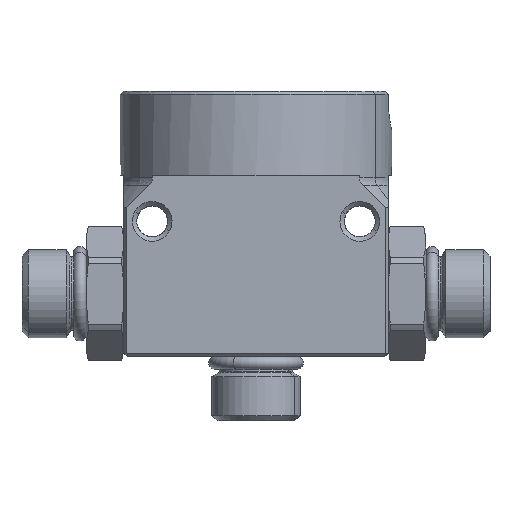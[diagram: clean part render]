
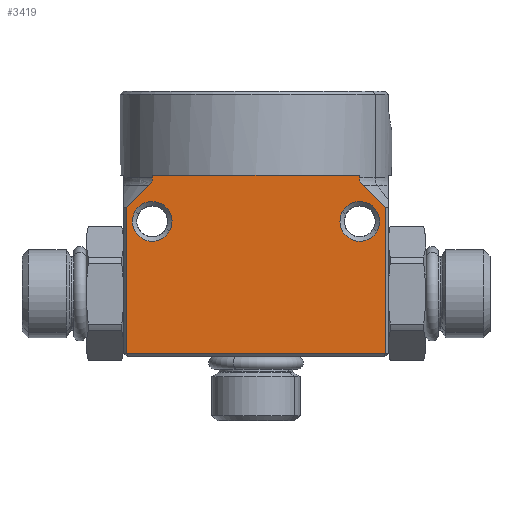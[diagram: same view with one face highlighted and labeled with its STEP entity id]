
A CAD part, left-side view. The second image highlights one B-rep face of the part: STEP entity #3419.
In plain terms, the highlighted planar face has unit normal (-1, 0, 0).
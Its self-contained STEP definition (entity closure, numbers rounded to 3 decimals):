
#2984=AXIS2_PLACEMENT_3D('Circle Axis2P3D',#2982,#2983,$) ;
#3008=AXIS2_PLACEMENT_3D('Circle Axis2P3D',#3006,#3007,$) ;
#3105=AXIS2_PLACEMENT_3D('Circle Axis2P3D',#3103,#3104,$) ;
#3129=AXIS2_PLACEMENT_3D('Circle Axis2P3D',#3127,#3128,$) ;
#3392=AXIS2_PLACEMENT_3D('Plane Axis2P3D',#3389,#3390,#3391) ;
#40=CARTESIAN_POINT('Vertex',(-14.,16.449,-2.072)) ;
#45=CARTESIAN_POINT('Line Origine',(-14.,16.449,4.564)) ;
#49=CARTESIAN_POINT('Vertex',(-14.,16.449,-1.7)) ;
#56=CARTESIAN_POINT('Vertex',(-14.,-16.449,-1.7)) ;
#59=CARTESIAN_POINT('Line Origine',(-14.,-16.449,4.564)) ;
#63=CARTESIAN_POINT('Vertex',(-14.,-16.449,-2.072)) ;
#160=CARTESIAN_POINT('Vertex',(-14.,17.059,-3.358)) ;
#164=CARTESIAN_POINT('Control Point',(-14.,16.449,-2.072)) ;
#165=CARTESIAN_POINT('Control Point',(-14.,16.449,-2.44)) ;
#166=CARTESIAN_POINT('Control Point',(-14.,16.571,-2.807)) ;
#167=CARTESIAN_POINT('Control Point',(-14.,16.79,-3.111)) ;
#168=CARTESIAN_POINT('Control Point',(-14.,17.059,-3.358)) ;
#195=CARTESIAN_POINT('Vertex',(-14.,20.592,-6.733)) ;
#199=CARTESIAN_POINT('Control Point',(-14.,17.059,-3.358)) ;
#200=CARTESIAN_POINT('Control Point',(-14.,18.248,-4.454)) ;
#201=CARTESIAN_POINT('Control Point',(-14.,19.426,-5.584)) ;
#202=CARTESIAN_POINT('Control Point',(-14.,20.592,-6.733)) ;
#216=CARTESIAN_POINT('Line Origine',(-14.,20.592,-18.366)) ;
#220=CARTESIAN_POINT('Vertex',(-14.,20.592,-30.)) ;
#2811=CARTESIAN_POINT('Line Origine',(-14.,0.,-1.7)) ;
#2822=CARTESIAN_POINT('Control Point',(-14.,-16.449,-2.072)) ;
#2823=CARTESIAN_POINT('Control Point',(-14.,-16.449,-2.44)) ;
#2824=CARTESIAN_POINT('Control Point',(-14.,-16.571,-2.807)) ;
#2825=CARTESIAN_POINT('Control Point',(-14.,-16.79,-3.111)) ;
#2826=CARTESIAN_POINT('Control Point',(-14.,-17.059,-3.358)) ;
#2827=CARTESIAN_POINT('Vertex',(-14.,-17.059,-3.358)) ;
#2843=CARTESIAN_POINT('Control Point',(-14.,-17.059,-3.358)) ;
#2844=CARTESIAN_POINT('Control Point',(-14.,-18.248,-4.454)) ;
#2845=CARTESIAN_POINT('Control Point',(-14.,-19.426,-5.584)) ;
#2846=CARTESIAN_POINT('Control Point',(-14.,-20.592,-6.733)) ;
#2847=CARTESIAN_POINT('Vertex',(-14.,-20.592,-6.733)) ;
#2871=CARTESIAN_POINT('Line Origine',(-14.,-20.592,-18.366)) ;
#2875=CARTESIAN_POINT('Vertex',(-14.,-20.592,-30.)) ;
#2979=CARTESIAN_POINT('Vertex',(-14.,13.728,-10.514)) ;
#2982=CARTESIAN_POINT('Axis2P3D Location',(-14.,16.5,-9.)) ;
#2986=CARTESIAN_POINT('Vertex',(-14.,19.272,-7.486)) ;
#3006=CARTESIAN_POINT('Axis2P3D Location',(-14.,16.5,-9.)) ;
#3100=CARTESIAN_POINT('Vertex',(-14.,-19.272,-10.514)) ;
#3103=CARTESIAN_POINT('Axis2P3D Location',(-14.,-16.5,-9.)) ;
#3107=CARTESIAN_POINT('Vertex',(-14.,-13.728,-7.486)) ;
#3127=CARTESIAN_POINT('Axis2P3D Location',(-14.,-16.5,-9.)) ;
#3389=CARTESIAN_POINT('Axis2P3D Location',(-14.,-21.,0.)) ;
#3394=CARTESIAN_POINT('Line Origine',(-14.,0.,-30.)) ;
#46=DIRECTION('Vector Direction',(0.,0.,-1.)) ;
#60=DIRECTION('Vector Direction',(0.,0.,-1.)) ;
#217=DIRECTION('Vector Direction',(0.,0.,-1.)) ;
#2812=DIRECTION('Vector Direction',(0.,1.,0.)) ;
#2872=DIRECTION('Vector Direction',(0.,0.,-1.)) ;
#2983=DIRECTION('Axis2P3D Direction',(-1.,-0.,0.)) ;
#3007=DIRECTION('Axis2P3D Direction',(-1.,0.,0.)) ;
#3104=DIRECTION('Axis2P3D Direction',(-1.,-0.,0.)) ;
#3128=DIRECTION('Axis2P3D Direction',(-1.,0.,0.)) ;
#3390=DIRECTION('Axis2P3D Direction',(-1.,0.,0.)) ;
#3391=DIRECTION('Axis2P3D XDirection',(0.,1.,0.)) ;
#3395=DIRECTION('Vector Direction',(0.,1.,0.)) ;
#47=VECTOR('Line Direction',#46,1.) ;
#61=VECTOR('Line Direction',#60,1.) ;
#218=VECTOR('Line Direction',#217,1.) ;
#2813=VECTOR('Line Direction',#2812,1.) ;
#2873=VECTOR('Line Direction',#2872,1.) ;
#3396=VECTOR('Line Direction',#3395,1.) ;
#3400=ORIENTED_EDGE('',*,*,#2877,.F.) ;
#3401=ORIENTED_EDGE('',*,*,#2849,.F.) ;
#3402=ORIENTED_EDGE('',*,*,#2829,.F.) ;
#3403=ORIENTED_EDGE('',*,*,#65,.T.) ;
#3404=ORIENTED_EDGE('',*,*,#2815,.F.) ;
#3405=ORIENTED_EDGE('',*,*,#51,.T.) ;
#3406=ORIENTED_EDGE('',*,*,#169,.T.) ;
#3407=ORIENTED_EDGE('',*,*,#203,.T.) ;
#3408=ORIENTED_EDGE('',*,*,#222,.T.) ;
#3409=ORIENTED_EDGE('',*,*,#3398,.T.) ;
#3412=ORIENTED_EDGE('',*,*,#3131,.F.) ;
#3413=ORIENTED_EDGE('',*,*,#3109,.F.) ;
#3416=ORIENTED_EDGE('',*,*,#3010,.F.) ;
#3417=ORIENTED_EDGE('',*,*,#2988,.F.) ;
#3414=FACE_BOUND('',#3411,.T.) ;
#3418=FACE_BOUND('',#3415,.T.) ;
#3419=ADVANCED_FACE('F02U_004_060-01_EIZ_Gehaeuse.1\\PartBody',(#3410,#3414,#3418),#3393,.T.) ;
#163=B_SPLINE_CURVE_WITH_KNOTS('',4,(#164,#165,#166,#167,#168),.UNSPECIFIED.,.F.,.U.,(5,5),(0.,2.079),.UNSPECIFIED.) ;
#198=B_SPLINE_CURVE_WITH_KNOTS('',3,(#199,#200,#201,#202),.UNSPECIFIED.,.F.,.U.,(4,4),(0.,6.914),.UNSPECIFIED.) ;
#2821=B_SPLINE_CURVE_WITH_KNOTS('',4,(#2822,#2823,#2824,#2825,#2826),.UNSPECIFIED.,.F.,.U.,(5,5),(0.,2.079),.UNSPECIFIED.) ;
#2842=B_SPLINE_CURVE_WITH_KNOTS('',3,(#2843,#2844,#2845,#2846),.UNSPECIFIED.,.F.,.U.,(4,4),(0.,6.914),.UNSPECIFIED.) ;
#2985=CIRCLE('generated circle',#2984,3.159) ;
#3009=CIRCLE('generated circle',#3008,3.159) ;
#3106=CIRCLE('generated circle',#3105,3.159) ;
#3130=CIRCLE('generated circle',#3129,3.159) ;
#51=EDGE_CURVE('',#50,#41,#48,.T.) ;
#65=EDGE_CURVE('',#64,#57,#62,.F.) ;
#169=EDGE_CURVE('',#41,#161,#163,.T.) ;
#203=EDGE_CURVE('',#161,#196,#198,.T.) ;
#222=EDGE_CURVE('',#196,#221,#219,.T.) ;
#2815=EDGE_CURVE('',#50,#57,#2814,.F.) ;
#2829=EDGE_CURVE('',#64,#2828,#2821,.T.) ;
#2849=EDGE_CURVE('',#2828,#2848,#2842,.T.) ;
#2877=EDGE_CURVE('',#2848,#2876,#2874,.T.) ;
#2988=EDGE_CURVE('',#2980,#2987,#2985,.T.) ;
#3010=EDGE_CURVE('',#2987,#2980,#3009,.T.) ;
#3109=EDGE_CURVE('',#3101,#3108,#3106,.T.) ;
#3131=EDGE_CURVE('',#3108,#3101,#3130,.T.) ;
#3398=EDGE_CURVE('',#221,#2876,#3397,.F.) ;
#3399=EDGE_LOOP('',(#3400,#3401,#3402,#3403,#3404,#3405,#3406,#3407,#3408,#3409)) ;
#3411=EDGE_LOOP('',(#3412,#3413)) ;
#3415=EDGE_LOOP('',(#3416,#3417)) ;
#3410=FACE_OUTER_BOUND('',#3399,.T.) ;
#48=LINE('Line',#45,#47) ;
#62=LINE('Line',#59,#61) ;
#219=LINE('Line',#216,#218) ;
#2814=LINE('Line',#2811,#2813) ;
#2874=LINE('Line',#2871,#2873) ;
#3397=LINE('Line',#3394,#3396) ;
#3393=PLANE('',#3392) ;
#41=VERTEX_POINT('',#40) ;
#50=VERTEX_POINT('',#49) ;
#57=VERTEX_POINT('',#56) ;
#64=VERTEX_POINT('',#63) ;
#161=VERTEX_POINT('',#160) ;
#196=VERTEX_POINT('',#195) ;
#221=VERTEX_POINT('',#220) ;
#2828=VERTEX_POINT('',#2827) ;
#2848=VERTEX_POINT('',#2847) ;
#2876=VERTEX_POINT('',#2875) ;
#2980=VERTEX_POINT('',#2979) ;
#2987=VERTEX_POINT('',#2986) ;
#3101=VERTEX_POINT('',#3100) ;
#3108=VERTEX_POINT('',#3107) ;
